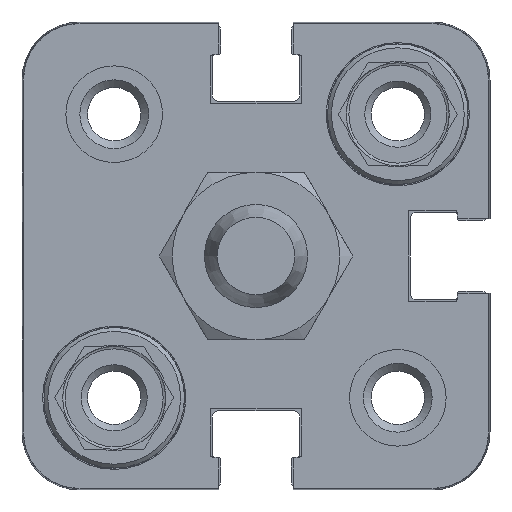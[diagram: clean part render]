
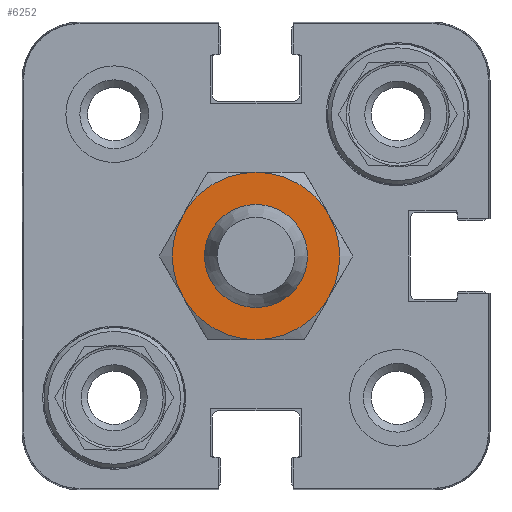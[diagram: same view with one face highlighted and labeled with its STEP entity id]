
A CAD part, front view. The second image highlights one B-rep face of the part: STEP entity #6252.
In plain terms, the highlighted planar face has unit normal (0, -1, 0) as drawn and (-1, 0, 0) by its records, which use the part's own axes.
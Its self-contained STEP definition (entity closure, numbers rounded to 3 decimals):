
#3061=ORIENTED_EDGE('',*,*,#3933,.F.);
#3062=ORIENTED_EDGE('',*,*,#3930,.T.);
#3063=ORIENTED_EDGE('',*,*,#3928,.T.);
#3064=ORIENTED_EDGE('',*,*,#3926,.T.);
#3065=ORIENTED_EDGE('',*,*,#3925,.T.);
#3066=ORIENTED_EDGE('',*,*,#3927,.T.);
#3067=ORIENTED_EDGE('',*,*,#3929,.T.);
#3925=EDGE_CURVE('',#4528,#4516,#4774,.T.);
#3926=EDGE_CURVE('',#4525,#4528,#4775,.T.);
#3927=EDGE_CURVE('',#4516,#4512,#4776,.T.);
#3928=EDGE_CURVE('',#4521,#4525,#4777,.T.);
#3929=EDGE_CURVE('',#4512,#4506,#4778,.T.);
#3930=EDGE_CURVE('',#4506,#4521,#4779,.T.);
#3933=EDGE_CURVE('',#4532,#4532,#4782,.T.);
#4506=VERTEX_POINT('',#12786);
#4512=VERTEX_POINT('',#12807);
#4516=VERTEX_POINT('',#12825);
#4521=VERTEX_POINT('',#12844);
#4525=VERTEX_POINT('',#12862);
#4528=VERTEX_POINT('',#12879);
#4532=VERTEX_POINT('',#12922);
#4774=CIRCLE('',#8773,6.5);
#4775=CIRCLE('',#8775,6.5);
#4776=CIRCLE('',#8777,6.5);
#4777=CIRCLE('',#8779,6.5);
#4778=CIRCLE('',#8781,6.5);
#4779=CIRCLE('',#8783,6.5);
#4782=CIRCLE('',#8789,4.);
#5248=EDGE_LOOP('',(#3061));
#5249=EDGE_LOOP('',(#3062,#3063,#3064,#3065,#3066,#3067));
#5718=FACE_BOUND('',#5248,.T.);
#5719=FACE_BOUND('',#5249,.T.);
#5893=PLANE('',#8788);
#6252=ADVANCED_FACE('',(#5718,#5719),#5893,.F.);
#8773=AXIS2_PLACEMENT_3D('',#12903,#10394,#10395);
#8775=AXIS2_PLACEMENT_3D('',#12905,#10398,#10399);
#8777=AXIS2_PLACEMENT_3D('',#12907,#10402,#10403);
#8779=AXIS2_PLACEMENT_3D('',#12909,#10406,#10407);
#8781=AXIS2_PLACEMENT_3D('',#12911,#10410,#10411);
#8783=AXIS2_PLACEMENT_3D('',#12913,#10414,#10415);
#8788=AXIS2_PLACEMENT_3D('',#12920,#10424,#10425);
#8789=AXIS2_PLACEMENT_3D('',#12921,#10426,#10427);
#10394=DIRECTION('',(-1.,0.,0.));
#10395=DIRECTION('',(0.,1.,0.));
#10398=DIRECTION('',(-1.,0.,0.));
#10399=DIRECTION('',(0.,1.,0.));
#10402=DIRECTION('',(-1.,0.,0.));
#10403=DIRECTION('',(0.,1.,0.));
#10406=DIRECTION('',(-1.,0.,0.));
#10407=DIRECTION('',(0.,1.,0.));
#10410=DIRECTION('',(-1.,0.,0.));
#10411=DIRECTION('',(0.,1.,0.));
#10414=DIRECTION('',(-1.,0.,0.));
#10415=DIRECTION('',(0.,1.,0.));
#10424=DIRECTION('',(1.,0.,0.));
#10425=DIRECTION('',(0.,0.,-1.));
#10426=DIRECTION('',(-1.,0.,0.));
#10427=DIRECTION('',(0.,0.,-1.));
#12786=CARTESIAN_POINT('',(0.,-5.629,-3.25));
#12807=CARTESIAN_POINT('',(0.,0.,-6.5));
#12825=CARTESIAN_POINT('',(0.,5.629,-3.25));
#12844=CARTESIAN_POINT('',(0.,-5.629,3.25));
#12862=CARTESIAN_POINT('',(0.,0.,6.5));
#12879=CARTESIAN_POINT('',(0.,5.629,3.25));
#12903=CARTESIAN_POINT('',(0.,0.,0.));
#12905=CARTESIAN_POINT('',(0.,0.,0.));
#12907=CARTESIAN_POINT('',(0.,0.,0.));
#12909=CARTESIAN_POINT('',(0.,0.,0.));
#12911=CARTESIAN_POINT('',(0.,0.,0.));
#12913=CARTESIAN_POINT('',(0.,0.,0.));
#12920=CARTESIAN_POINT('',(0.,0.,0.));
#12921=CARTESIAN_POINT('',(0.,0.,0.));
#12922=CARTESIAN_POINT('',(0.,0.,-4.));
